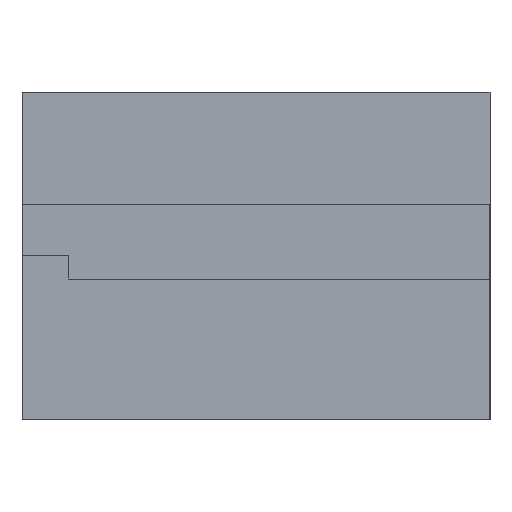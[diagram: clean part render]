
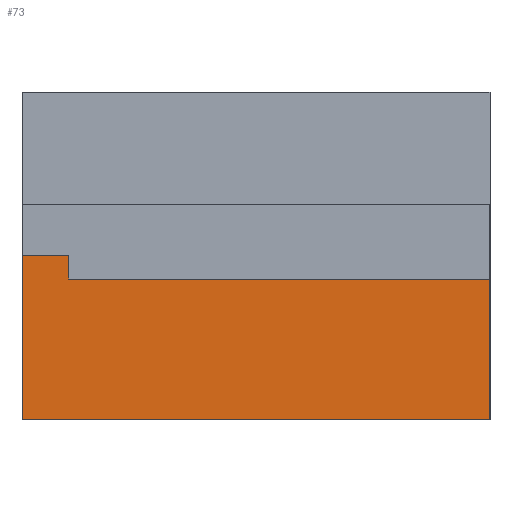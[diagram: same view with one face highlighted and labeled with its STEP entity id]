
A CAD part, left-side view. The second image highlights one B-rep face of the part: STEP entity #73.
In plain terms, the highlighted planar face has unit normal (-1, 0, 0).
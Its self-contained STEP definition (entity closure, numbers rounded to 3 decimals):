
#73=ADVANCED_FACE('',(#326),#328,.F.);
#326=FACE_BOUND('',#327,.T.);
#327=EDGE_LOOP('',(#1831,#1832,#1833,#1834,#1835,#1836));
#328=PLANE('',#329);
#329=AXIS2_PLACEMENT_3D('',#330,#331,#332);
#330=CARTESIAN_POINT('',(-25.8,-15.619,7.017));
#331=DIRECTION('',(1.,0.,0.));
#332=DIRECTION('',(0.,0.,-1.));
#1831=ORIENTED_EDGE('',*,*,#1936,.F.);
#1832=ORIENTED_EDGE('',*,*,#1937,.T.);
#1833=ORIENTED_EDGE('',*,*,#1938,.F.);
#1834=ORIENTED_EDGE('',*,*,#1902,.F.);
#1835=ORIENTED_EDGE('',*,*,#1932,.F.);
#1836=ORIENTED_EDGE('',*,*,#1916,.F.);
#1902=EDGE_CURVE('',#1987,#1989,#1990,.F.);
#1916=EDGE_CURVE('',#2013,#2015,#2016,.F.);
#1932=EDGE_CURVE('',#2015,#1987,#2041,.T.);
#1936=EDGE_CURVE('',#2048,#2013,#2049,.F.);
#1937=EDGE_CURVE('',#2048,#2050,#2051,.T.);
#1938=EDGE_CURVE('',#1989,#2050,#2052,.T.);
#1987=VERTEX_POINT('',#2152);
#1989=VERTEX_POINT('',#2156);
#1990=LINE('',#2157,#2158);
#2013=VERTEX_POINT('',#2206);
#2015=VERTEX_POINT('',#2210);
#2016=LINE('',#2211,#2212);
#2041=LINE('',#2272,#2273);
#2048=VERTEX_POINT('',#2290);
#2049=LINE('',#2291,#2292);
#2050=VERTEX_POINT('',#2294);
#2051=LINE('',#2295,#2296);
#2052=LINE('',#2298,#2299);
#2152=CARTESIAN_POINT('',(-25.8,12.381,0.));
#2156=CARTESIAN_POINT('',(-25.8,12.381,7.017));
#2157=CARTESIAN_POINT('',(-25.8,12.381,7.017));
#2158=VECTOR('',#2159,1.);
#2159=DIRECTION('',(0.,0.,-1.));
#2206=CARTESIAN_POINT('',(-25.8,-7.619,6.017));
#2210=CARTESIAN_POINT('',(-25.8,-7.619,0.));
#2211=CARTESIAN_POINT('',(-25.8,-7.619,0.));
#2212=VECTOR('',#2213,1.);
#2213=DIRECTION('',(0.,0.,1.));
#2272=CARTESIAN_POINT('',(-25.8,-7.619,0.));
#2273=VECTOR('',#2274,1.);
#2274=DIRECTION('',(0.,1.,0.));
#2290=CARTESIAN_POINT('',(-25.8,10.381,6.017));
#2291=CARTESIAN_POINT('',(-25.8,-7.619,6.017));
#2292=VECTOR('',#2293,1.);
#2293=DIRECTION('',(0.,1.,0.));
#2294=CARTESIAN_POINT('',(-25.8,10.381,7.017));
#2295=CARTESIAN_POINT('',(-25.8,10.381,6.017));
#2296=VECTOR('',#2297,1.);
#2297=DIRECTION('',(0.,0.,1.));
#2298=CARTESIAN_POINT('',(-25.8,12.381,7.017));
#2299=VECTOR('',#2300,1.);
#2300=DIRECTION('',(0.,-1.,0.));
